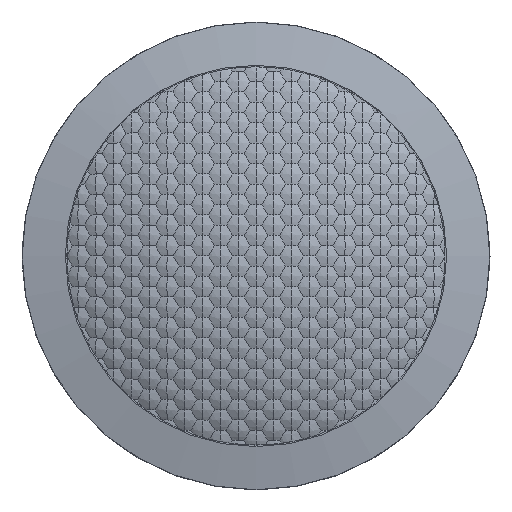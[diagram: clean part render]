
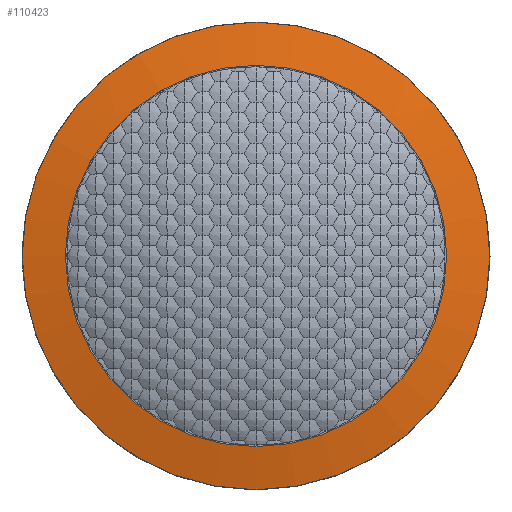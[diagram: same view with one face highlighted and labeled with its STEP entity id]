
A CAD part, top view. The second image highlights one B-rep face of the part: STEP entity #110423.
In plain terms, the highlighted spherical face has radius 366.067 mm.
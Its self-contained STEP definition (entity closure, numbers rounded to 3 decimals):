
#106502=CARTESIAN_POINT('',(-5.369,0.,0.));
#106503=DIRECTION('',(1.,0.,0.));
#106504=DIRECTION('',(0.,1.,0.));
#106505=AXIS2_PLACEMENT_3D('',#106502,#106503,#106504);
#106507=CARTESIAN_POINT('',(-5.369,0.,0.));
#106508=DIRECTION('',(1.,0.,0.));
#106509=DIRECTION('',(0.,-1.,0.));
#106510=AXIS2_PLACEMENT_3D('',#106507,#106508,#106509);
#106512=CARTESIAN_POINT('',(-8.353,0.,0.));
#106513=DIRECTION('',(-1.,0.,0.));
#106514=DIRECTION('',(0.,-1.,0.));
#106515=AXIS2_PLACEMENT_3D('',#106512,#106513,#106514);
#106517=CARTESIAN_POINT('',(-8.353,0.,0.));
#106518=DIRECTION('',(-1.,0.,0.));
#106519=DIRECTION('',(0.,1.,0.));
#106520=AXIS2_PLACEMENT_3D('',#106517,#106518,#106519);
#107423=CARTESIAN_POINT('',(-5.369,79.923,0.));
#107424=VERTEX_POINT('',#107423);
#107425=CARTESIAN_POINT('',(-5.369,-79.923,
0.));
#107426=VERTEX_POINT('',#107425);
#107427=CARTESIAN_POINT('',(-8.353,-65.169,0.));
#107428=CARTESIAN_POINT('',(-8.353,65.169,0.));
#107429=VERTEX_POINT('',#107427);
#107430=VERTEX_POINT('',#107428);
#110408=CARTESIAN_POINT('',(351.866,0.,0.));
#110409=DIRECTION('',(0.,0.,1.));
#110410=DIRECTION('',(0.,-1.,0.));
#110411=AXIS2_PLACEMENT_3D('',#110408,#110409,#110410);
#110412=SPHERICAL_SURFACE('',#110411,366.067);
#110414=ORIENTED_EDGE('',*,*,#110413,.T.);
#110416=ORIENTED_EDGE('',*,*,#110415,.T.);
#110417=EDGE_LOOP('',(#110414,#110416));
#110418=FACE_OUTER_BOUND('',#110417,.F.);
#110419=ORIENTED_EDGE('',*,*,#110212,.T.);
#110420=ORIENTED_EDGE('',*,*,#110402,.T.);
#110421=EDGE_LOOP('',(#110419,#110420));
#110422=FACE_BOUND('',#110421,.F.);
#110423=ADVANCED_FACE('',(#110418,#110422),#110412,.T.);
#106506=CIRCLE('',#106505,79.923);
#106511=CIRCLE('',#106510,79.923);
#106516=CIRCLE('',#106515,65.169);
#106521=CIRCLE('',#106520,65.169);
#110212=EDGE_CURVE('',#107429,#107430,#106516,.T.);
#110402=EDGE_CURVE('',#107430,#107429,#106521,.T.);
#110413=EDGE_CURVE('',#107424,#107426,#106506,.T.);
#110415=EDGE_CURVE('',#107426,#107424,#106511,.T.);
